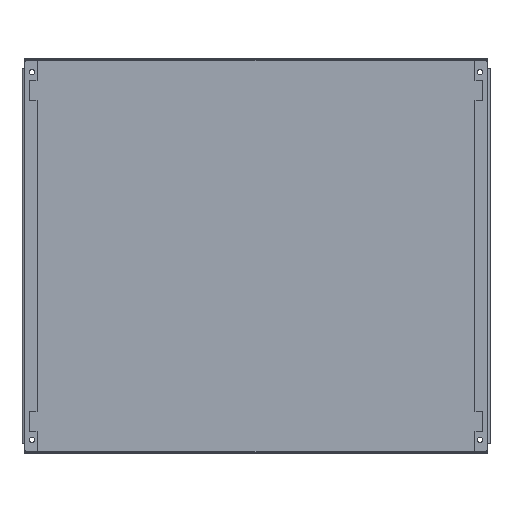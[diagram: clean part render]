
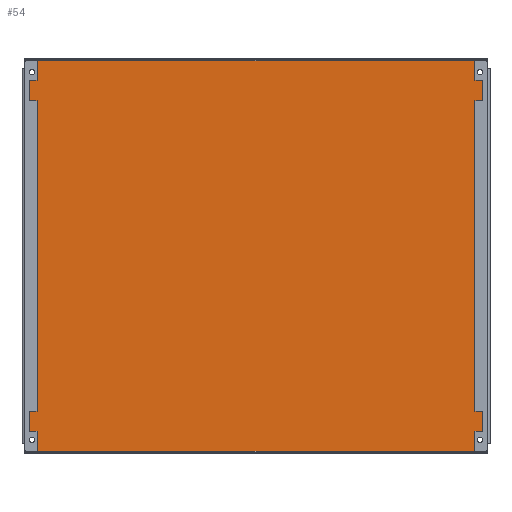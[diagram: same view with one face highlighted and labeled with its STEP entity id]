
A CAD part, top view. The second image highlights one B-rep face of the part: STEP entity #54.
In plain terms, the highlighted planar face has unit normal (0, 0, 1).
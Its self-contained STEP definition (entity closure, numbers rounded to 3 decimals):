
#54=ADVANCED_FACE('',(#186,#188,#190,#192,#194),#196,.T.);
#186=FACE_BOUND('',#187,.T.);
#187=EDGE_LOOP('',(#1129,#1130,#1131,#1132,#1133,#1134,#1135,#1136));
#188=FACE_BOUND('',#189,.T.);
#189=EDGE_LOOP('',(#1137));
#190=FACE_BOUND('',#191,.T.);
#191=EDGE_LOOP('',(#1138));
#192=FACE_BOUND('',#193,.T.);
#193=EDGE_LOOP('',(#1139));
#194=FACE_BOUND('',#195,.T.);
#195=EDGE_LOOP('',(#1140));
#196=PLANE('',#197);
#197=AXIS2_PLACEMENT_3D('',#198,#199,#200);
#198=CARTESIAN_POINT('',(0.,0.,2.));
#199=DIRECTION('',(0.,0.,1.));
#200=DIRECTION('',(1.,0.,0.));
#1129=ORIENTED_EDGE('',*,*,#1689,.T.);
#1130=ORIENTED_EDGE('',*,*,#1690,.T.);
#1131=ORIENTED_EDGE('',*,*,#1691,.T.);
#1132=ORIENTED_EDGE('',*,*,#1692,.T.);
#1133=ORIENTED_EDGE('',*,*,#1693,.T.);
#1134=ORIENTED_EDGE('',*,*,#1694,.T.);
#1135=ORIENTED_EDGE('',*,*,#1695,.T.);
#1136=ORIENTED_EDGE('',*,*,#1696,.T.);
#1137=ORIENTED_EDGE('',*,*,#1697,.T.);
#1138=ORIENTED_EDGE('',*,*,#1698,.T.);
#1139=ORIENTED_EDGE('',*,*,#1699,.T.);
#1140=ORIENTED_EDGE('',*,*,#1700,.T.);
#1689=EDGE_CURVE('',#1981,#1982,#1983,.F.);
#1690=EDGE_CURVE('',#1982,#1984,#1985,.T.);
#1691=EDGE_CURVE('',#1984,#1986,#1987,.F.);
#1692=EDGE_CURVE('',#1986,#1988,#1989,.T.);
#1693=EDGE_CURVE('',#1988,#1990,#1991,.F.);
#1694=EDGE_CURVE('',#1990,#1992,#1993,.T.);
#1695=EDGE_CURVE('',#1992,#1994,#1995,.F.);
#1696=EDGE_CURVE('',#1994,#1981,#1996,.T.);
#1697=EDGE_CURVE('',#1997,#1997,#1998,.T.);
#1698=EDGE_CURVE('',#1999,#1999,#2000,.T.);
#1699=EDGE_CURVE('',#2001,#2001,#2002,.T.);
#1700=EDGE_CURVE('',#2003,#2003,#2004,.T.);
#1981=VERTEX_POINT('',#2473);
#1982=VERTEX_POINT('',#2474);
#1983=LINE('',#2475,#2476);
#1984=VERTEX_POINT('',#2478);
#1985=LINE('',#2479,#2480);
#1986=VERTEX_POINT('',#2482);
#1987=LINE('',#2483,#2484);
#1988=VERTEX_POINT('',#2486);
#1989=LINE('',#2487,#2488);
#1990=VERTEX_POINT('',#2490);
#1991=LINE('',#2491,#2492);
#1992=VERTEX_POINT('',#2494);
#1993=LINE('',#2495,#2496);
#1994=VERTEX_POINT('',#2498);
#1995=LINE('',#2499,#2500);
#1996=LINE('',#2502,#2503);
#1997=VERTEX_POINT('',#2505);
#1998=CIRCLE('',#2506,8.5);
#1999=VERTEX_POINT('',#2510);
#2000=CIRCLE('',#2511,8.5);
#2001=VERTEX_POINT('',#2515);
#2002=CIRCLE('',#2516,8.5);
#2003=VERTEX_POINT('',#2520);
#2004=CIRCLE('',#2521,8.5);
#2473=CARTESIAN_POINT('',(4.,15.,2.));
#2474=CARTESIAN_POINT('',(4.,4.,2.));
#2475=CARTESIAN_POINT('',(4.,4.,2.));
#2476=VECTOR('',#2477,1.);
#2477=DIRECTION('',(0.,1.,0.));
#2478=CARTESIAN_POINT('',(696.,4.,2.));
#2479=CARTESIAN_POINT('',(4.,4.,2.));
#2480=VECTOR('',#2481,1.);
#2481=DIRECTION('',(1.,0.,0.));
#2482=CARTESIAN_POINT('',(696.,15.,2.));
#2483=CARTESIAN_POINT('',(696.,15.,2.));
#2484=VECTOR('',#2485,1.);
#2485=DIRECTION('',(0.,-1.,0.));
#2486=CARTESIAN_POINT('',(696.,577.,2.));
#2487=CARTESIAN_POINT('',(696.,15.,2.));
#2488=VECTOR('',#2489,1.);
#2489=DIRECTION('',(0.,1.,0.));
#2490=CARTESIAN_POINT('',(696.,588.,2.));
#2491=CARTESIAN_POINT('',(696.,588.,2.));
#2492=VECTOR('',#2493,1.);
#2493=DIRECTION('',(0.,-1.,0.));
#2494=CARTESIAN_POINT('',(4.,588.,2.));
#2495=CARTESIAN_POINT('',(696.,588.,2.));
#2496=VECTOR('',#2497,1.);
#2497=DIRECTION('',(-1.,0.,0.));
#2498=CARTESIAN_POINT('',(4.,577.,2.));
#2499=CARTESIAN_POINT('',(4.,577.,2.));
#2500=VECTOR('',#2501,1.);
#2501=DIRECTION('',(0.,1.,0.));
#2502=CARTESIAN_POINT('',(4.,577.,2.));
#2503=VECTOR('',#2504,1.);
#2504=DIRECTION('',(0.,-1.,0.));
#2505=CARTESIAN_POINT('',(23.5,21.,2.));
#2506=AXIS2_PLACEMENT_3D('',#2507,#2508,#2509);
#2507=CARTESIAN_POINT('',(15.,21.,2.));
#2508=DIRECTION('',(0.,0.,-1.));
#2509=DIRECTION('',(1.,0.,0.));
#2510=CARTESIAN_POINT('',(693.5,21.,2.));
#2511=AXIS2_PLACEMENT_3D('',#2512,#2513,#2514);
#2512=CARTESIAN_POINT('',(685.,21.,2.));
#2513=DIRECTION('',(0.,0.,-1.));
#2514=DIRECTION('',(1.,0.,0.));
#2515=CARTESIAN_POINT('',(23.5,571.,2.));
#2516=AXIS2_PLACEMENT_3D('',#2517,#2518,#2519);
#2517=CARTESIAN_POINT('',(15.,571.,2.));
#2518=DIRECTION('',(0.,0.,-1.));
#2519=DIRECTION('',(1.,0.,0.));
#2520=CARTESIAN_POINT('',(693.5,571.,2.));
#2521=AXIS2_PLACEMENT_3D('',#2522,#2523,#2524);
#2522=CARTESIAN_POINT('',(685.,571.,2.));
#2523=DIRECTION('',(0.,0.,-1.));
#2524=DIRECTION('',(1.,0.,0.));
